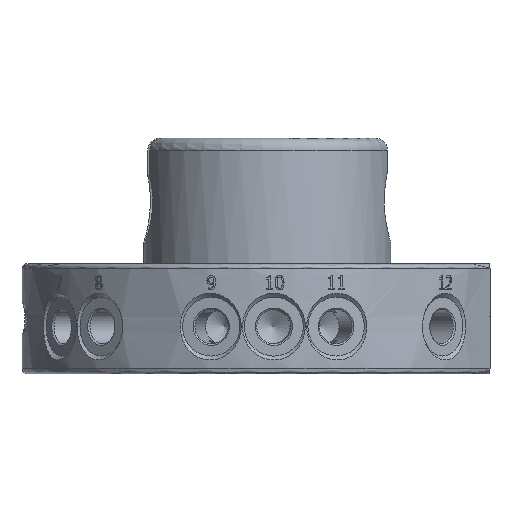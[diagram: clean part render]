
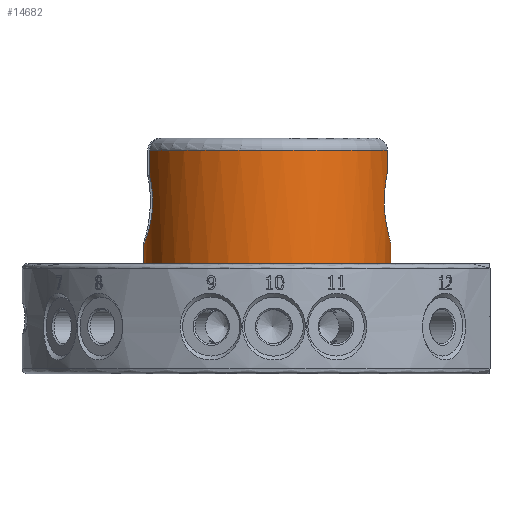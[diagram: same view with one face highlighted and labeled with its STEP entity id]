
A CAD part, left-side view. The second image highlights one B-rep face of the part: STEP entity #14682.
In plain terms, the highlighted cylindrical face has radius 31.5 mm (diameter 63 mm), a full revolution.
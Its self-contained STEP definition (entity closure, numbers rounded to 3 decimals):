
#899=B_SPLINE_CURVE_WITH_KNOTS('',3,(#62972,#62973,#62974,#62975,#62976,
#62977,#62978,#62979,#62980,#62981,#62982,#62983,#62984,#62985,#62986,#62987,
#62988,#62989,#62990,#62991,#62992,#62993,#62994,#62995,#62996,#62997,#62998),
 .UNSPECIFIED.,.F.,.F.,(4,2,3,2,2,2,2,2,2,2,2,2,4),(-0.775,
-0.418,0.,0.418,0.837,1.255,
1.673,2.091,2.509,2.927,3.346,
3.764,4.12),.UNSPECIFIED.);
#900=B_SPLINE_CURVE_WITH_KNOTS('',3,(#63000,#63001,#63002,#63003,#63004,
#63005,#63006,#63007,#63008,#63009,#63010,#63011,#63012,#63013,#63014,#63015,
#63016,#63017,#63018,#63019,#63020,#63021,#63022,#63023,#63024,#63025,#63026),
 .UNSPECIFIED.,.F.,.F.,(4,2,2,2,2,2,2,2,2,2,3,2,4),(-4.027,-3.764,
-3.346,-2.927,-2.509,-2.091,
-1.673,-1.255,-0.837,-0.418,
0.,0.418,0.681),
 .UNSPECIFIED.);
#1005=CYLINDRICAL_SURFACE('',#15610,31.5);
#2360=FACE_OUTER_BOUND('',#3306,.T.);
#3306=EDGE_LOOP('',(#13128,#13129,#13130,#13131,#13132,#13133,#13134,#13135,
#13136,#13137,#13138,#13139));
#3831=LINE('',#21918,#4824);
#3835=LINE('',#21984,#4828);
#4293=LINE('',#62936,#5286);
#4297=LINE('',#62962,#5290);
#4299=LINE('',#63052,#5292);
#4824=VECTOR('',#16801,10.);
#4828=VECTOR('',#16813,10.);
#5286=VECTOR('',#18357,10.);
#5290=VECTOR('',#18369,10.);
#5292=VECTOR('',#18415,31.5);
#5560=CIRCLE('',#15490,31.5);
#5612=CIRCLE('',#15594,31.5);
#5618=CIRCLE('',#15608,31.5);
#5619=CIRCLE('',#15609,31.5);
#6215=VERTEX_POINT('',#21908);
#6216=VERTEX_POINT('',#21917);
#6223=VERTEX_POINT('',#21974);
#6224=VERTEX_POINT('',#21983);
#6924=VERTEX_POINT('',#62685);
#6983=VERTEX_POINT('',#62933);
#6984=VERTEX_POINT('',#62935);
#6987=VERTEX_POINT('',#62959);
#6988=VERTEX_POINT('',#62961);
#6992=VERTEX_POINT('',#63048);
#7867=EDGE_CURVE('',#6216,#6215,#3831,.T.);
#7878=EDGE_CURVE('',#6224,#6223,#3835,.T.);
#8924=EDGE_CURVE('',#6924,#6924,#5560,.T.);
#9020=EDGE_CURVE('',#6984,#6983,#4293,.T.);
#9027=EDGE_CURVE('',#6988,#6987,#4297,.T.);
#9029=EDGE_CURVE('',#6987,#6224,#899,.T.);
#9030=EDGE_CURVE('',#6983,#6216,#900,.T.);
#9032=EDGE_CURVE('',#6223,#6984,#5612,.T.);
#9039=EDGE_CURVE('',#6992,#6988,#5618,.T.);
#9040=EDGE_CURVE('',#6215,#6992,#5619,.T.);
#9041=EDGE_CURVE('',#6924,#6992,#4299,.T.);
#13128=ORIENTED_EDGE('',*,*,#8924,.F.);
#13129=ORIENTED_EDGE('',*,*,#9041,.T.);
#13130=ORIENTED_EDGE('',*,*,#9039,.T.);
#13131=ORIENTED_EDGE('',*,*,#9027,.T.);
#13132=ORIENTED_EDGE('',*,*,#9029,.T.);
#13133=ORIENTED_EDGE('',*,*,#7878,.T.);
#13134=ORIENTED_EDGE('',*,*,#9032,.T.);
#13135=ORIENTED_EDGE('',*,*,#9020,.T.);
#13136=ORIENTED_EDGE('',*,*,#9030,.T.);
#13137=ORIENTED_EDGE('',*,*,#7867,.T.);
#13138=ORIENTED_EDGE('',*,*,#9040,.T.);
#13139=ORIENTED_EDGE('',*,*,#9041,.F.);
#14682=ADVANCED_FACE('',(#2360),#1005,.T.);
#15490=AXIS2_PLACEMENT_3D('',#62686,#18126,#18127);
#15594=AXIS2_PLACEMENT_3D('',#63030,#18380,#18381);
#15608=AXIS2_PLACEMENT_3D('',#63049,#18409,#18410);
#15609=AXIS2_PLACEMENT_3D('',#63050,#18411,#18412);
#15610=AXIS2_PLACEMENT_3D('',#63051,#18413,#18414);
#16801=DIRECTION('',(0.,0.,1.));
#16813=DIRECTION('',(0.,0.,1.));
#18126=DIRECTION('center_axis',(0.,0.,
-1.));
#18127=DIRECTION('ref_axis',(1.,0.027,0.));
#18357=DIRECTION('',(0.,0.,-1.));
#18369=DIRECTION('',(0.,0.,-1.));
#18380=DIRECTION('center_axis',(0.,0.,
-1.));
#18381=DIRECTION('ref_axis',(-1.,-0.027,0.));
#18409=DIRECTION('center_axis',(0.,0.,
-1.));
#18410=DIRECTION('ref_axis',(-1.,-0.027,0.));
#18411=DIRECTION('center_axis',(0.,0.,
-1.));
#18412=DIRECTION('ref_axis',(-1.,-0.027,0.));
#18413=DIRECTION('center_axis',(0.,0.,
-1.));
#18414=DIRECTION('ref_axis',(-1.,-0.027,0.));
#18415=DIRECTION('',(0.,0.,1.));
#21908=CARTESIAN_POINT('',(11.369,30.685,-11.));
#21917=CARTESIAN_POINT('',(11.369,30.685,-17.4));
#21918=CARTESIAN_POINT('',(11.369,30.685,-28.683));
#21974=CARTESIAN_POINT('',(-3.969,-30.416,-11.));
#21983=CARTESIAN_POINT('',(-3.969,-30.416,-16.668));
#21984=CARTESIAN_POINT('',(-3.969,-30.416,-28.683));
#62685=CARTESIAN_POINT('',(34.886,1.07,-40.));
#62686=CARTESIAN_POINT('Origin',(3.397,0.21,-40.));
#62933=CARTESIAN_POINT('',(-6.225,30.205,-17.4));
#62935=CARTESIAN_POINT('',(-6.225,30.205,-11.));
#62936=CARTESIAN_POINT('',(-6.225,30.205,-28.683));
#62959=CARTESIAN_POINT('',(12.425,-29.969,-16.668));
#62961=CARTESIAN_POINT('',(12.425,-29.969,-11.));
#62962=CARTESIAN_POINT('',(12.425,-29.969,-28.683));
#62972=CARTESIAN_POINT('Ctrl Pts',(12.425,-29.969,-16.668));
#62973=CARTESIAN_POINT('Ctrl Pts',(13.212,-29.733,-17.556));
#62974=CARTESIAN_POINT('Ctrl Pts',(13.888,-29.496,-18.621));
#62975=CARTESIAN_POINT('Ctrl Pts',(14.921,-29.112,-21.127));
#62976=CARTESIAN_POINT('Ctrl Pts',(15.199,-28.996,-22.606));
#62977=CARTESIAN_POINT('Ctrl Pts',(15.199,-28.996,-24.));
#62978=CARTESIAN_POINT('Ctrl Pts',(15.199,-28.996,-25.394));
#62979=CARTESIAN_POINT('Ctrl Pts',(14.921,-29.112,-26.873));
#62980=CARTESIAN_POINT('Ctrl Pts',(13.806,-29.526,-29.579));
#62981=CARTESIAN_POINT('Ctrl Pts',(12.969,-29.817,-30.808));
#62982=CARTESIAN_POINT('Ctrl Pts',(11.043,-30.364,-32.748));
#62983=CARTESIAN_POINT('Ctrl Pts',(9.822,-30.658,-33.593));
#62984=CARTESIAN_POINT('Ctrl Pts',(7.126,-31.098,-34.719));
#62985=CARTESIAN_POINT('Ctrl Pts',(5.65,-31.24,-35.));
#62986=CARTESIAN_POINT('Ctrl Pts',(2.864,-31.316,-35.));
#62987=CARTESIAN_POINT('Ctrl Pts',(1.383,-31.255,-34.719));
#62988=CARTESIAN_POINT('Ctrl Pts',(-1.333,-30.963,
-33.593));
#62989=CARTESIAN_POINT('Ctrl Pts',(-2.569,-30.736,
-32.748));
#62990=CARTESIAN_POINT('Ctrl Pts',(-4.521,-30.295,-30.808));
#62991=CARTESIAN_POINT('Ctrl Pts',(-5.373,-30.05,-29.579));
#62992=CARTESIAN_POINT('Ctrl Pts',(-6.509,-29.697,
-26.873));
#62993=CARTESIAN_POINT('Ctrl Pts',(-6.793,-29.596,
-25.394));
#62994=CARTESIAN_POINT('Ctrl Pts',(-6.793,-29.596,
-22.606));
#62995=CARTESIAN_POINT('Ctrl Pts',(-6.509,-29.697,
-21.127));
#62996=CARTESIAN_POINT('Ctrl Pts',(-5.457,-30.024,
-18.621));
#62997=CARTESIAN_POINT('Ctrl Pts',(-4.769,-30.224,-17.556));
#62998=CARTESIAN_POINT('Ctrl Pts',(-3.969,-30.416,
-16.668));
#63000=CARTESIAN_POINT('Ctrl Pts',(-6.225,30.205,-17.4));
#63001=CARTESIAN_POINT('Ctrl Pts',(-6.759,30.033,-18.119));
#63002=CARTESIAN_POINT('Ctrl Pts',(-7.218,29.87,-18.923));
#63003=CARTESIAN_POINT('Ctrl Pts',(-8.126,29.533,-21.127));
#63004=CARTESIAN_POINT('Ctrl Pts',(-8.404,29.416,-22.606));
#63005=CARTESIAN_POINT('Ctrl Pts',(-8.404,29.416,-25.394));
#63006=CARTESIAN_POINT('Ctrl Pts',(-8.126,29.533,-26.873));
#63007=CARTESIAN_POINT('Ctrl Pts',(-7.011,29.947,-29.579));
#63008=CARTESIAN_POINT('Ctrl Pts',(-6.174,30.237,-30.808));
#63009=CARTESIAN_POINT('Ctrl Pts',(-4.248,30.785,-32.748));
#63010=CARTESIAN_POINT('Ctrl Pts',(-3.027,31.078,-33.593));
#63011=CARTESIAN_POINT('Ctrl Pts',(-0.331,31.519,
-34.719));
#63012=CARTESIAN_POINT('Ctrl Pts',(1.145,31.66,-35.));
#63013=CARTESIAN_POINT('Ctrl Pts',(3.931,31.737,-35.));
#63014=CARTESIAN_POINT('Ctrl Pts',(5.412,31.675,-34.719));
#63015=CARTESIAN_POINT('Ctrl Pts',(8.128,31.383,-33.593));
#63016=CARTESIAN_POINT('Ctrl Pts',(9.364,31.156,-32.748));
#63017=CARTESIAN_POINT('Ctrl Pts',(11.316,30.715,-30.808));
#63018=CARTESIAN_POINT('Ctrl Pts',(12.168,30.47,-29.579));
#63019=CARTESIAN_POINT('Ctrl Pts',(13.304,30.118,-26.873));
#63020=CARTESIAN_POINT('Ctrl Pts',(13.588,30.016,-25.394));
#63021=CARTESIAN_POINT('Ctrl Pts',(13.588,30.016,-24.));
#63022=CARTESIAN_POINT('Ctrl Pts',(13.588,30.016,-22.606));
#63023=CARTESIAN_POINT('Ctrl Pts',(13.304,30.118,-21.127));
#63024=CARTESIAN_POINT('Ctrl Pts',(12.378,30.405,-18.923));
#63025=CARTESIAN_POINT('Ctrl Pts',(11.912,30.543,-18.119));
#63026=CARTESIAN_POINT('Ctrl Pts',(11.369,30.685,-17.4));
#63030=CARTESIAN_POINT('Origin',(3.397,0.21,-11.));
#63048=CARTESIAN_POINT('',(34.886,1.07,-11.));
#63049=CARTESIAN_POINT('Origin',(3.397,0.21,-11.));
#63050=CARTESIAN_POINT('Origin',(3.397,0.21,-11.));
#63051=CARTESIAN_POINT('Origin',(3.397,0.21,-28.683));
#63052=CARTESIAN_POINT('',(34.886,1.07,-28.683));
